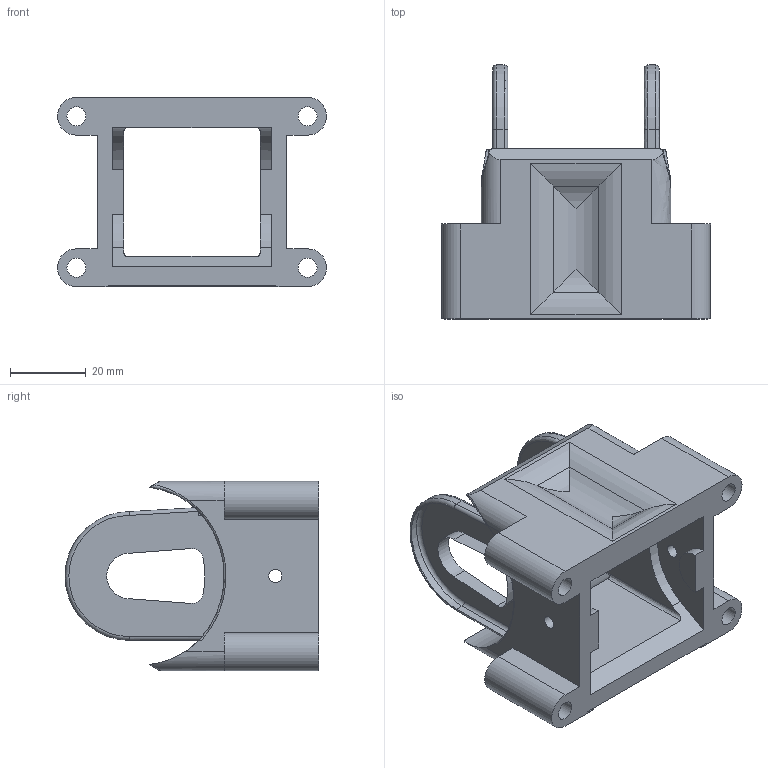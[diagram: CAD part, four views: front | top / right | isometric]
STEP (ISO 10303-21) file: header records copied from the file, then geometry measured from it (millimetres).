
FILE_DESCRIPTION((''),'2;1');
FILE_NAME('C:\Uebbing\PARAMETERKETTEN\PFR\PFR 221\PFR 221 SFA Bohrung R100.stp','2012-03-30T08:17:41',('Uebbing'),(''),'Autodesk Inventor 10','Autodesk Inventor 10','');
FILE_SCHEMA(('AUTOMOTIVE_DESIGN { 1 0 10303 214 1 1 1 1 }'));
Length unit declared in the file: millimetre
Products named in the file (1): PFR 221 SFA Bohrung R100
Bounding box: 71 x 67 x 50 mm (x, y, z)
Volume: 50762.3 mm3; surface area: 23745.4 mm2
Topology: 1 solids, 1 shells, 120 faces, 327 edges, 210 vertices
Faces by surface type: bspline 44, cylinder 39, plane 33, torus 4
Full cylindrical faces by diameter (mm): 3.5 x1, 5 x4
Entity records: 4891 total; most frequent: CARTESIAN_POINT 1946, ORIENTED_EDGE 642, DIRECTION 555, EDGE_CURVE 321, VERTEX_POINT 210, AXIS2_PLACEMENT_3D 191, VECTOR 173, LINE 173
